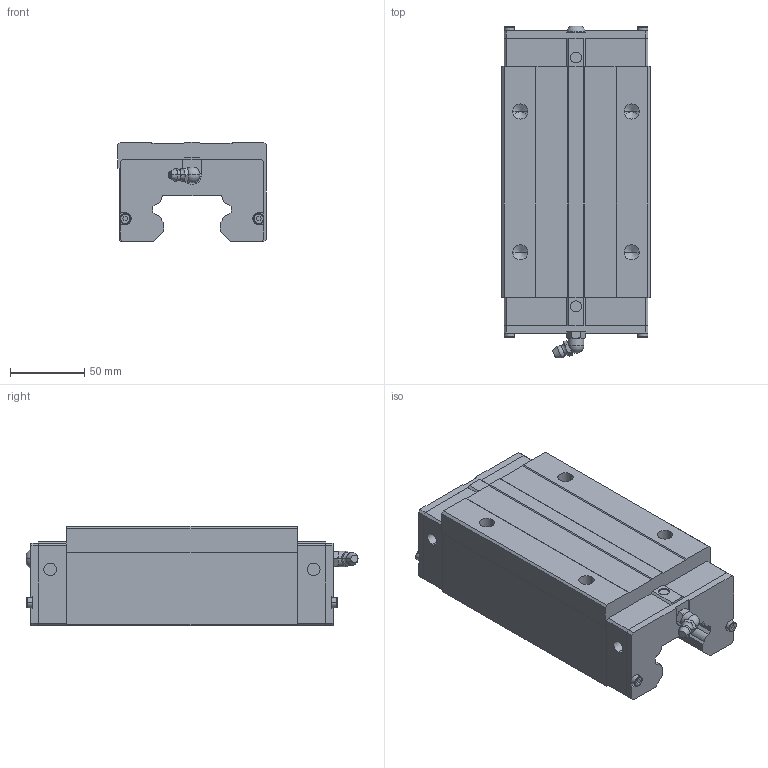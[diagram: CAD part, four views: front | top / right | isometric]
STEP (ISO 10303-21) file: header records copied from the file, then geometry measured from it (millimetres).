
FILE_DESCRIPTION(('no description'),'unknown implementation level');
FILE_NAME('HGH55HA_Z0_H_SS_13.stp',' ',('HIWIN GmbH'),('CADClick - KiM GmbH - www.kimweb.de'),'unknown preprocess','ACIS','unknown authorization');
FILE_SCHEMA(('automotive_design'));
Length unit declared in the file: millimetre
Products named in the file (1): HGH55HA Z0 H SS
Bounding box: 100 x 223.93 x 67 mm (x, y, z)
Volume: 999525.2 mm3; surface area: 96626.8 mm2
Topology: 1 solids, 6 shells, 293 faces, 757 edges, 479 vertices
Faces by surface type: plane 179, cylinder 60, torus 30, cone 22, sphere 2
Entity records: 17472 total; most frequent: CARTESIAN_POINT 1820, STYLED_ITEM 1520, PRESENTATION_STYLE_ASSIGNMENT 1520, COLOUR_RGB 1520, ORIENTED_EDGE 1494, DIRECTION 1486, EDGE_CURVE 747, CURVE_STYLE 747
